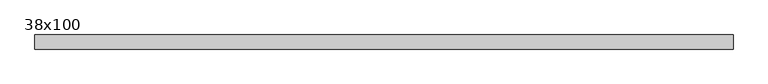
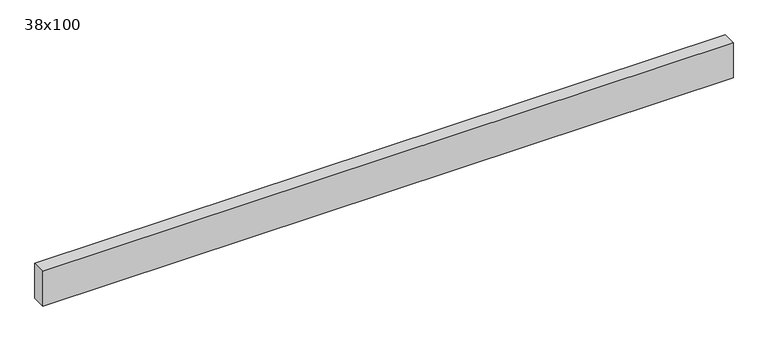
"""IFC4 building model written with IfcOpenShell, lengths in millimetres: beam geometry, Poutre - Bois de construction de dimensions courantes : 38x100."""

from ifc_helpers import new_model, si_unit, frame, origin, place, context, project, spatial, polyline, outline, extrude, source, transform, mapped, element, save


def beam_38x100_a8dbd26a(model_context):
    return source(origin(), model_context, "Body", "SweptSolid", [
        extrude(outline(polyline([(936.0, 19.05), (936.0, -19.05), (-950.0, -19.05), (-950.0, 19.05), (936.0, 19.05)])), frame((0.0, 0.0, -50.0), z_axis=(0.0, 0.0, 1.0), x_axis=(1.0, 0.0, 0.0)), (0.0, 0.0, 1.0), 100.0),
    ])


if __name__ == "__main__":
    model = new_model("IFC4")
    model_context = context("Model", 3, world=origin())
    ifc_project = project(units=[si_unit("LENGTHUNIT", "METRE", prefix="MILLI")], contexts=[model_context])
    site = spatial("IfcSite", under=ifc_project)
    building = spatial("IfcBuilding", under=site)
    placement = place(None, origin())
    beam_38x100_shape = beam_38x100_a8dbd26a(model_context)
    element("IfcBeam", 1, ObjectType="Poutre - Bois de construction de dimensions courantes : 38x100", at=placement, inside=building, context=model_context, shape_type="MappedRepresentation", body=[
        mapped(beam_38x100_shape, transform((0.0, 0.0, 0.0), x_axis=(1.0, 0.0, 0.0), y_axis=(0.0, 1.0, 0.0), z_axis=(0.0, 0.0, 1.0))),
    ])
    save(model, "model.ifc")
